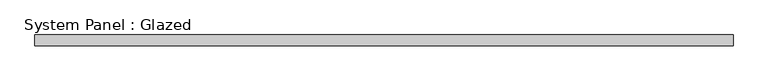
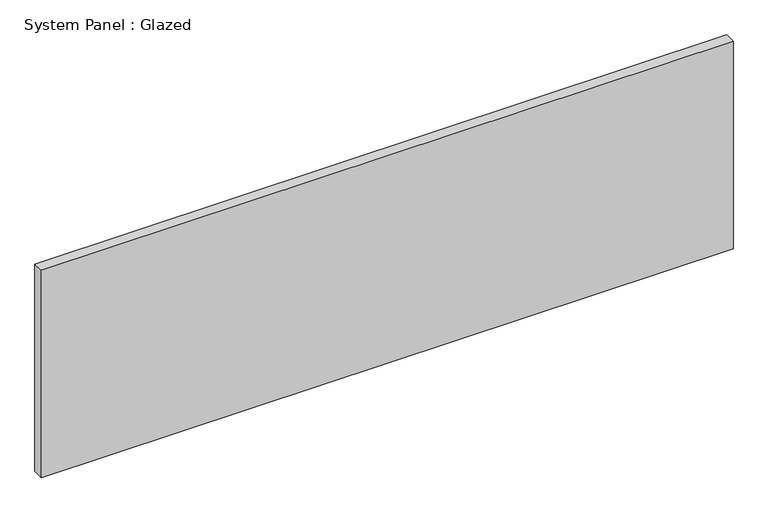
"""IFC4 building model written with IfcOpenShell, lengths in millimetres: plate geometry, System Panel : Glazed."""

from ifc_helpers import new_model, si_unit, origin, origin_with_axes, place, context, project, spatial, polyline, outline, extrude, source, transform, mapped, element, save


def system_panel_glazed_0956ccd0(model_context):
    return source(origin(), model_context, "Body", "SweptSolid", [
        extrude(outline(polyline([(806.8423679, 19.05), (-806.8423679, 19.05), (-806.8423679, 44.45), (806.8423679, 44.45), (806.8423679, 19.05)])), origin_with_axes(), (0.0, 0.0, 1.0), 511.3509366),
    ])


if __name__ == "__main__":
    model = new_model("IFC4")
    model_context = context("Model", 3, world=origin())
    ifc_project = project(units=[si_unit("LENGTHUNIT", "METRE", prefix="MILLI")], contexts=[model_context])
    site = spatial("IfcSite", under=ifc_project)
    building = spatial("IfcBuilding", under=site)
    placement = place(None, origin())
    system_panel_glazed_shape = system_panel_glazed_0956ccd0(model_context)
    element("IfcPlate", 1, ObjectType="System Panel : Glazed", at=placement, inside=building, context=model_context, shape_type="MappedRepresentation", body=[
        mapped(system_panel_glazed_shape, transform((0.0, 0.0, 0.0), x_axis=(1.0, 0.0, 0.0), y_axis=(0.0, 1.0, 0.0), z_axis=(0.0, 0.0, 1.0))),
    ])
    save(model, "model.ifc")
